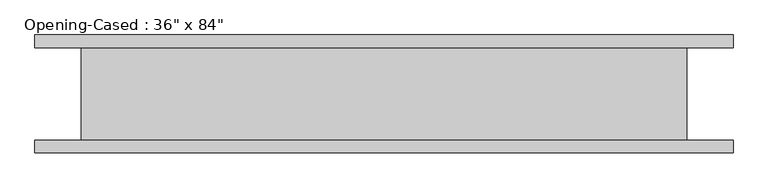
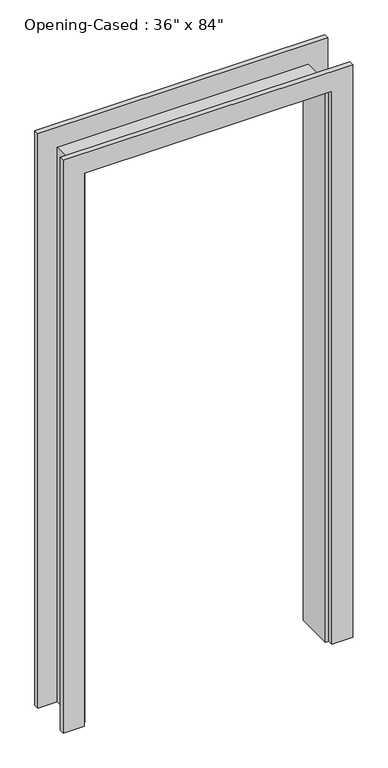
"""IFC4 building model written with IfcOpenShell, lengths in millimetres: proxy geometry."""

import ifcopenshell
import ifcopenshell.guid

model = None  # the IFC model being written
_history = None  # IfcOwnerHistory: only IFC2X3 demands one
_inside = {}  # id of a spatial element -> (the spatial element, [elements in it])
_under = {}  # id of a project, library or spatial element -> (it, [spatial elements below it])
_declared = {}  # id of a project -> (the project, [libraries it declares])
_typed = {}  # id of a type object -> (the type object, [elements of that type])
_made_of = {}  # id of a material, layer set ... -> (it, [elements and type objects made of it])


def new_model(schema):
    """Start an empty IFC model of exactly this schema.

    Asked for "IFC4X3", IfcOpenShell would pick the latest addendum, in which some entities
    have other attributes; the version numbers below select the first issue.
    IFC2X3 requires an IfcOwnerHistory on every rooted entity: one is made here for all.
    """
    global model, _history
    if schema == "IFC4X3":
        model = ifcopenshell.file(schema_version=(4, 3, 0, 0))
    else:
        model = ifcopenshell.file(schema=schema)
    _inside.clear()
    _under.clear()
    _declared.clear()
    _typed.clear()
    _made_of.clear()
    _history = None
    if model.schema == "IFC2X3":
        org = make("IfcOrganization", Name="unknown")
        user = make(
            "IfcPersonAndOrganization",
            ThePerson=make("IfcPerson", FamilyName="unknown"),
            TheOrganization=org,
        )
        app = make(
            "IfcApplication",
            ApplicationDeveloper=org,
            Version="unknown",
            ApplicationFullName="unknown",
            ApplicationIdentifier="unknown",
        )
        _history = make(
            "IfcOwnerHistory",
            OwningUser=user,
            OwningApplication=app,
            ChangeAction="ADDED",
            CreationDate=0,
        )
    return model


def make(cls, **values):
    """One entity of the class cls with the attributes given. An attribute that is None is left unset."""
    return model.create_entity(
        cls, **{name: value for name, value in values.items() if value is not None}
    )


def rooted(cls, **values):
    """An entity with a GlobalId (a new one), such as an element, a storey or a relation."""
    return make(cls, GlobalId=ifcopenshell.guid.new(), OwnerHistory=_history, **values)


def si_unit(unit_type, name, prefix=None):
    """IfcSIUnit, for example si_unit("LENGTHUNIT", "METRE", prefix="MILLI")."""
    return make("IfcSIUnit", UnitType=unit_type, Prefix=prefix, Name=name)


def assignment(units):
    """IfcUnitAssignment: the units of a project."""
    return None if units is None else make("IfcUnitAssignment", Units=units)


def point(xyz):
    """IfcCartesianPoint."""
    return None if xyz is None else make("IfcCartesianPoint", Coordinates=xyz)


def direction(xyz):
    """IfcDirection."""
    return None if xyz is None else make("IfcDirection", DirectionRatios=xyz)


def frame(location, z_axis=None, x_axis=None):
    """IfcAxis2Placement3D, a coordinate frame: its origin and axes. An axis left out is left unset."""
    return make(
        "IfcAxis2Placement3D",
        Location=point(location),
        Axis=direction(z_axis),
        RefDirection=direction(x_axis),
    )


def origin():
    """The frame at (0, 0, 0) with its axes left unset."""
    return frame((0.0, 0.0, 0.0))


def place(relative_to, where):
    """IfcLocalPlacement: puts the frame where relative to a parent placement (None: the world)."""
    return make(
        "IfcLocalPlacement", PlacementRelTo=relative_to, RelativePlacement=where
    )


def context(
    kind, dimensions, precision=None, world=None, true_north=None, identifier=None
):
    """IfcGeometricRepresentationContext, for example the 3D "Model" context."""
    return make(
        "IfcGeometricRepresentationContext",
        ContextIdentifier=identifier,
        ContextType=kind,
        CoordinateSpaceDimension=dimensions,
        Precision=precision,
        WorldCoordinateSystem=world,
        TrueNorth=true_north,
    )


def project(units=None, contexts=None):
    """IfcProject with its units and contexts."""
    return rooted(
        "IfcProject",
        Name="project",
        RepresentationContexts=contexts,
        UnitsInContext=assignment(units),
    )


def spatial(cls, under=None, at=None, **own):
    """A site, building, storey or space (cls), placed at a placement, below another one or the project."""
    s = rooted(cls, ObjectPlacement=at, **own)
    if under is not None:
        _under.setdefault(under.id(), (under, []))[1].append(s)
    return s


def polyline(points):
    """IfcPolyline through the points."""
    return make("IfcPolyline", Points=[point(p) for p in points])


def outline(outer, holes=None, kind="AREA"):
    """IfcArbitraryClosedProfileDef: a profile drawn as a closed curve; with holes, ...WithVoids."""
    if holes is None:
        return make("IfcArbitraryClosedProfileDef", ProfileType=kind, OuterCurve=outer)
    return make(
        "IfcArbitraryProfileDefWithVoids",
        ProfileType=kind,
        OuterCurve=outer,
        InnerCurves=holes,
    )


def extrude(swept, where, along, depth):
    """IfcExtrudedAreaSolid: the profile swept, set in the frame where, extruded along a direction by depth."""
    return make(
        "IfcExtrudedAreaSolid",
        SweptArea=swept,
        Position=where,
        ExtrudedDirection=direction(along),
        Depth=depth,
    )


def faces_of(points, faces, orient=None, outer=None):
    """IfcFace entities. A face is a list of loops; a loop is a list of indices into points, from 0.

    orient and outer hold one flag for each loop. By default every Orientation is true, the
    first loop of a face is its IfcFaceOuterBound and the others are IfcFaceBound.
    """
    made = []
    for i, loops in enumerate(faces):
        bounds = []
        for j, loop in enumerate(loops):
            is_outer = j == 0 if outer is None else outer[i][j]
            bounds.append(
                make(
                    "IfcFaceOuterBound" if is_outer else "IfcFaceBound",
                    Bound=make("IfcPolyLoop", Polygon=[points[k] for k in loop]),
                    Orientation=True if orient is None else orient[i][j],
                )
            )
        made.append(make("IfcFace", Bounds=bounds))
    return made


def faceted_brep(points, faces, orient=None, outer=None, voids=None):
    """IfcFacetedBrep: a solid bounded by flat faces; with voids (closed shells), ...WithVoids."""
    shared = [point(p) for p in points]
    hull = make("IfcClosedShell", CfsFaces=faces_of(shared, faces, orient, outer))
    if voids is None:
        return make("IfcFacetedBrep", Outer=hull)
    return make(
        "IfcFacetedBrepWithVoids",
        Outer=hull,
        Voids=[
            make(cls, CfsFaces=faces_of(shared, fs, o, b)) for cls, fs, o, b in voids
        ],
    )


def shape(context_of_items, identifier, shape_type, items):
    """IfcShapeRepresentation: the items that make up one representation, for example the "Body"."""
    return make(
        "IfcShapeRepresentation",
        ContextOfItems=context_of_items,
        RepresentationIdentifier=identifier,
        RepresentationType=shape_type,
        Items=items,
    )


def source(mapping_origin, context_of_items, identifier, shape_type, items):
    """IfcRepresentationMap: a shape defined once, which mapped items show again and again."""
    return make(
        "IfcRepresentationMap",
        MappingOrigin=mapping_origin,
        MappedRepresentation=shape(context_of_items, identifier, shape_type, items),
    )


def transform(
    local_origin,
    x_axis=None,
    y_axis=None,
    z_axis=None,
    scale=None,
    scale2=None,
    scale3=None,
    uniform=True,
):
    """IfcCartesianTransformationOperator3D, or its non-uniform kind. x_axis, y_axis, z_axis: its Axis1, 2, 3."""
    if uniform:
        return make(
            "IfcCartesianTransformationOperator3D",
            Axis1=direction(x_axis),
            Axis2=direction(y_axis),
            LocalOrigin=point(local_origin),
            Scale=scale,
            Axis3=direction(z_axis),
        )
    return make(
        "IfcCartesianTransformationOperator3DnonUniform",
        Axis1=direction(x_axis),
        Axis2=direction(y_axis),
        LocalOrigin=point(local_origin),
        Scale=scale,
        Axis3=direction(z_axis),
        Scale2=scale2,
        Scale3=scale3,
    )


def mapped(mapping_source, mapping_target):
    """IfcMappedItem: shows the shape of a source again, moved by a transform."""
    return make(
        "IfcMappedItem", MappingSource=mapping_source, MappingTarget=mapping_target
    )


def made_of(thing, what):
    """Note that an element or type object is made of a material, layer set ...; save() writes the relation."""
    if what is not None:
        _made_of.setdefault(what.id(), (what, []))[1].append(thing)
    return thing


def element(
    cls,
    number,
    at=None,
    inside=None,
    cuts=None,
    type_object=None,
    material=None,
    context=None,
    identifier="Body",
    shape_type=None,
    held_by="IfcProductDefinitionShape",
    body=None,
    shapes=None,
    **own,
):
    """One element of the class cls, such as IfcWall. Its Tag is "e" and its number.

    at: its placement. inside: the storey or other place that contains it. cuts: it is an
    opening in that element (IfcRelVoidsElement). A single representation is given by context,
    identifier, shape_type and body (its items); several are given by shapes. held_by: the class
    of the entity that holds the representations. save() writes the other relations.
    """
    e = rooted(cls, Tag="e%d" % number, ObjectPlacement=at, **own)
    if body is not None:
        shapes = [shape(context, identifier, shape_type, body)]
    if shapes is not None:
        e.Representation = make(held_by, Representations=shapes)
    if inside is not None:
        _inside.setdefault(inside.id(), (inside, []))[1].append(e)
    if cuts is not None:
        rooted(
            "IfcRelVoidsElement", RelatingBuildingElement=cuts, RelatedOpeningElement=e
        )
    if type_object is not None:
        _typed.setdefault(type_object.id(), (type_object, []))[1].append(e)
    return made_of(e, material)


def aggregate(whole, parts):
    """IfcRelAggregates: a whole, such as a stair, and the parts it consists of."""
    return rooted("IfcRelAggregates", RelatingObject=whole, RelatedObjects=parts)


def save(model, path):
    """Write the relations noted so far, then the file.

    IfcRelAggregates (storeys below a building ...), IfcRelContainedInSpatialStructure (elements
    in a storey), IfcRelDefinesByType, IfcRelAssociatesMaterial and IfcRelDeclares: one each for
    every whole, place, type object, material and project.
    """
    for whole, parts in _under.values():
        aggregate(whole, parts)
    for where, things in _inside.values():
        rooted(
            "IfcRelContainedInSpatialStructure",
            RelatedElements=things,
            RelatingStructure=where,
        )
    for kind, things in _typed.values():
        rooted("IfcRelDefinesByType", RelatedObjects=things, RelatingType=kind)
    for what, things in _made_of.values():
        rooted("IfcRelAssociatesMaterial", RelatedObjects=things, RelatingMaterial=what)
    for by, libraries in _declared.values():
        rooted("IfcRelDeclares", RelatingContext=by, RelatedDefinitions=libraries)
    model.write(path)


def proxy_e62dbe84(model_context):
    return source(origin(), model_context, "Body", "SolidModel", [
        extrude(outline(polyline([(0.0, -459.0386567), (2127.25, -459.0386567), (2127.25, 442.6613433), (0.0, 442.6613433), (0.0, 518.8613433), (2203.45, 518.8613433), (2203.45, -535.2386567), (0.0, -535.2386567), (0.0, -459.0386567)])), frame((0.0, -88.9, 0.0), z_axis=(0.0, 1.0, 0.0), x_axis=(0.0, 0.0, 1.0)), (0.0, 0.0, 1.0), 19.05),
        extrude(outline(polyline([(0.0, 518.8613433), (2209.8, 518.8613433), (2209.8, -535.2386567), (0.0, -535.2386567), (0.0, -459.0386567), (2127.25, -459.0386567), (2127.25, 442.6613433), (0.0, 442.6613433), (0.0, 518.8613433)])), frame((0.0, 69.85, 0.0), z_axis=(0.0, 1.0, 0.0), x_axis=(0.0, 0.0, 1.0)), (0.0, 0.0, 1.0), 19.05),
        faceted_brep([(429.9613433, 69.85, 0.0), (449.0113433, 69.85, 0.0), (449.0113433, -69.85, 0.0), (429.9613433, -69.85, 0.0), (429.9613433, 69.85, 2114.55), (449.0113433, 69.85, 2133.6), (449.0113433, -69.85, 2133.6), (429.9613433, -69.85, 2114.55), (-446.3386567, 69.85, 2114.55), (-465.3886567, 69.85, 2133.6), (-465.3886567, -69.85, 2133.6), (-446.3386567, -69.85, 2114.55), (-446.3386567, 69.85, 0.0), (-446.3386567, -69.85, 0.0), (-465.3886567, -69.85, 0.0), (-465.3886567, 69.85, 0.0)], [[[0, 1, 2, 3]], [[1, 0, 4, 5]], [[2, 1, 5, 6]], [[3, 2, 6, 7]], [[0, 3, 7, 4]], [[5, 4, 8, 9]], [[6, 5, 9, 10]], [[7, 6, 10, 11]], [[4, 7, 11, 8]], [[12, 13, 14, 15]], [[9, 8, 12, 15]], [[10, 9, 15, 14]], [[11, 10, 14, 13]], [[8, 11, 13, 12]]]),
    ])


if __name__ == "__main__":
    model = new_model("IFC4")
    model_context = context("Model", 3, world=origin())
    ifc_project = project(units=[si_unit("LENGTHUNIT", "METRE", prefix="MILLI")], contexts=[model_context])
    site = spatial("IfcSite", under=ifc_project)
    building = spatial("IfcBuilding", under=site)
    placement = place(None, origin())
    proxy_shape = proxy_e62dbe84(model_context)
    element("IfcBuildingElementProxy", 1, Name="Opening-Cased : 36\" x 84\"", ObjectType="Opening-Cased : 36\" x 84\"", at=placement, inside=building, context=model_context, shape_type="MappedRepresentation", body=[
        mapped(proxy_shape, transform((0.0, 0.0, 0.0), x_axis=(1.0, 0.0, 0.0), y_axis=(0.0, 1.0, 0.0), z_axis=(0.0, 0.0, 1.0))),
    ])
    save(model, "model.ifc")
